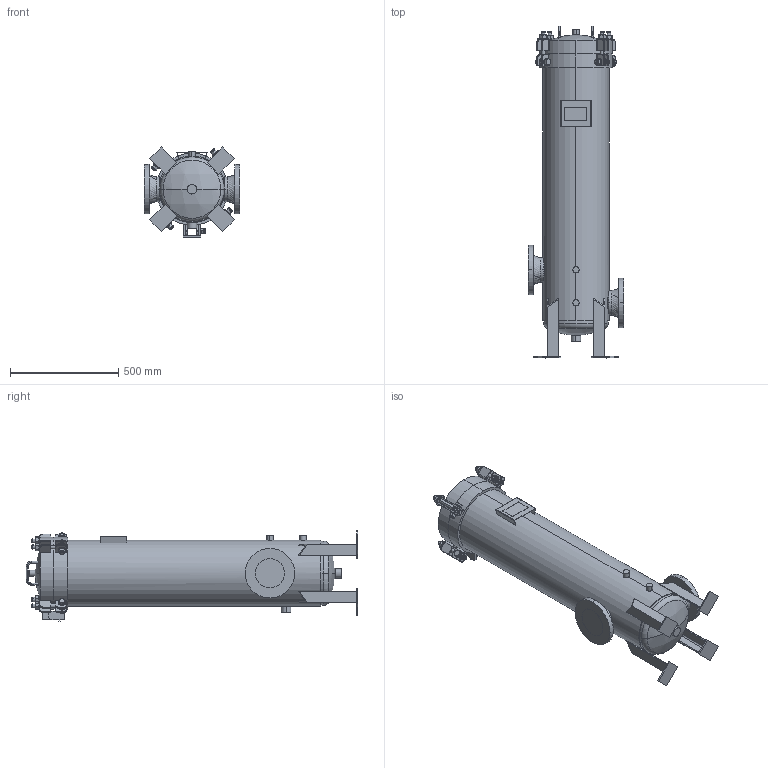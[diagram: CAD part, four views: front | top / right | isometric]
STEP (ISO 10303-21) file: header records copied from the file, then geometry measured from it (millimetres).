
FILE_DESCRIPTION (( 'STEP AP203' ), '1' );
FILE_NAME ('001021-00069.step', '2025-12-09T14:42:04', ( '' ), ( '' ), 'SwSTEP 2.0', 'SolidWorks 2023', '' );
FILE_SCHEMA (( 'CONFIG_CONTROL_DESIGN' ));
Length unit declared in the file: inch
Products named in the file (1): 001021-00069
Bounding box: 442.91 x 1532.31 x 416.07 mm (x, y, z)
Volume: 98910944 mm3; surface area: 2584065.8 mm2
Topology: 23 solids, 23 shells, 896 faces, 2064 edges, 1279 vertices
Faces by surface type: plane 403, cylinder 263, cone 180, torus 28, bspline 16, sphere 6
Entity records: 27991 total; most frequent: CARTESIAN_POINT 7807, DIRECTION 4250, ORIENTED_EDGE 4128, EDGE_CURVE 2064, AXIS2_PLACEMENT_3D 1680, VERTEX_POINT 1279, EDGE_LOOP 977, FACE_OUTER_BOUND 896
